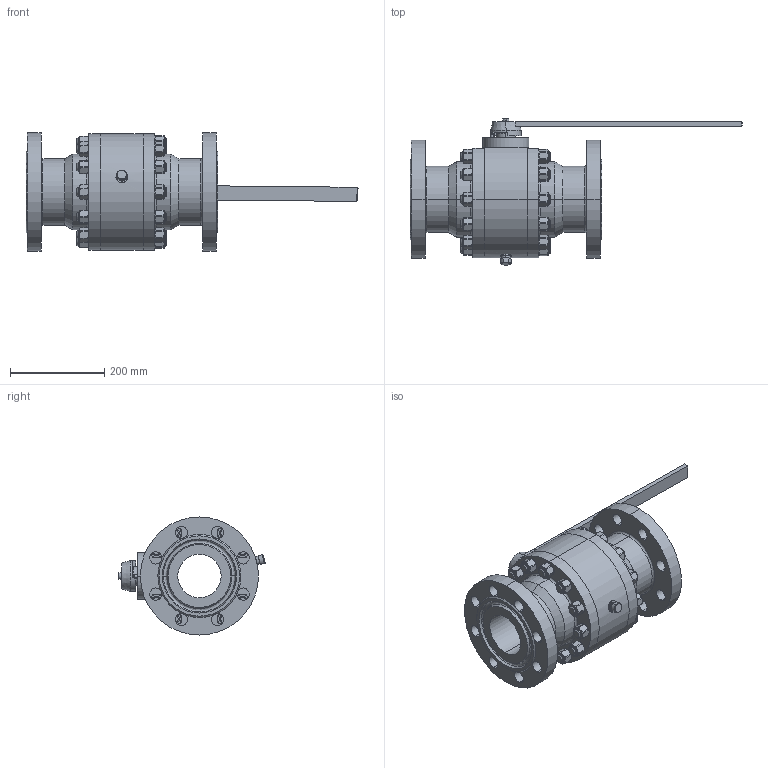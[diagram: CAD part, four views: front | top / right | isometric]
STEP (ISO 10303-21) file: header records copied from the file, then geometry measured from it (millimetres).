
FILE_DESCRIPTION(('STEP AP203'), '1');
FILE_NAME('ZARD 100.063.27.P.stp', '2013-12-09T05:57:02', ('UNSPECIFIED UNSPECIFIED'), ('UNSPECIFIED'), 'ASCON STEP Converter 1.3', 'Kompas 3D', '');
FILE_SCHEMA(('CONFIG_CONTROL_DESIGN','SUPPORT_RESOURCE_SCHEMA'));
Length unit declared in the file: millimetre
Products named in the file (1): 8
Bounding box: 703.1 x 309.74 x 250 mm (x, y, z)
Volume: 9036203.1 mm3; surface area: 1094943.9 mm2
Topology: 63 solids, 63 shells, 1265 faces, 2930 edges, 1795 vertices
Faces by surface type: cylinder 454, plane 409, cone 374, torus 24, bspline 4
Entity records: 53366 total; most frequent: CARTESIAN_POINT 24068, DIRECTION 6188, ORIENTED_EDGE 5824, EDGE_CURVE 2912, AXIS2_PLACEMENT_3D 2640, VERTEX_POINT 1795, EDGE_LOOP 1453, CIRCLE 1378
